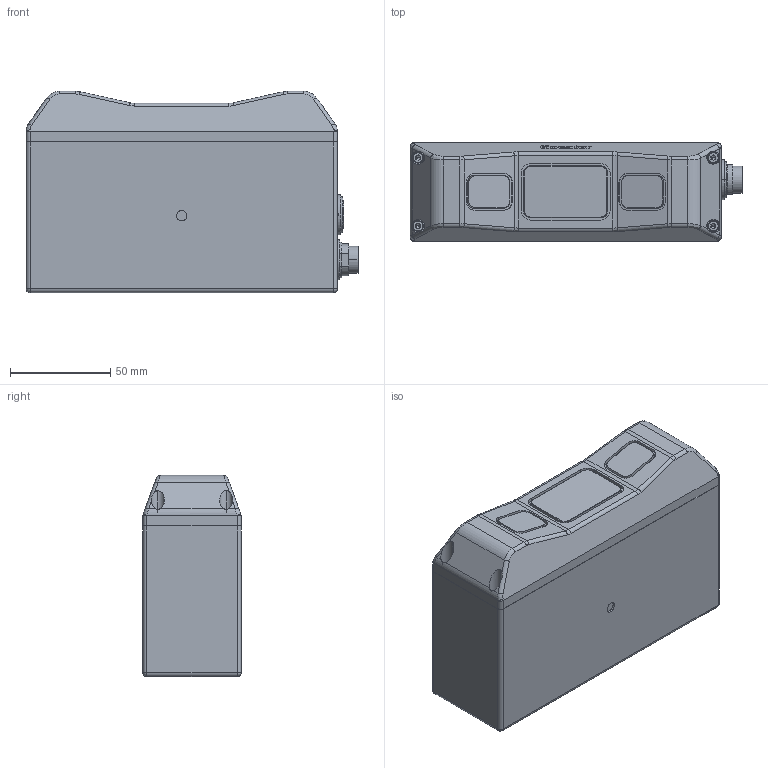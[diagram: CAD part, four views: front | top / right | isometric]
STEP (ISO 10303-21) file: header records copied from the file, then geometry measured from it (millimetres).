
FILE_DESCRIPTION (( 'STEP AP214' ), '1' );
FILE_NAME ('CAD_Gocator-3109A.STEP', '2015-09-24T17:03:11', ( '' ), ( '' ), 'SwSTEP 2.0', 'SolidWorks 2015', '' );
FILE_SCHEMA (( 'AUTOMOTIVE_DESIGN' ));
Length unit declared in the file: millimetre
Products named in the file (1): CAD_Gocator-3109A
Bounding box: 165.27 x 49 x 100.2 mm (x, y, z)
Volume: 646504.5 mm3; surface area: 97762.9 mm2
Topology: 35 solids, 37 shells, 1342 faces, 3575 edges, 2454 vertices
Faces by surface type: plane 611, cylinder 504, bspline 122, cone 91, torus 10, sphere 4
Entity records: 63842 total; most frequent: CARTESIAN_POINT 15621, ORIENTED_EDGE 7022, DIRECTION 6606, EDGE_CURVE 3511, VERTEX_POINT 2454, AXIS2_PLACEMENT_3D 2349, LINE 1908, VECTOR 1908
